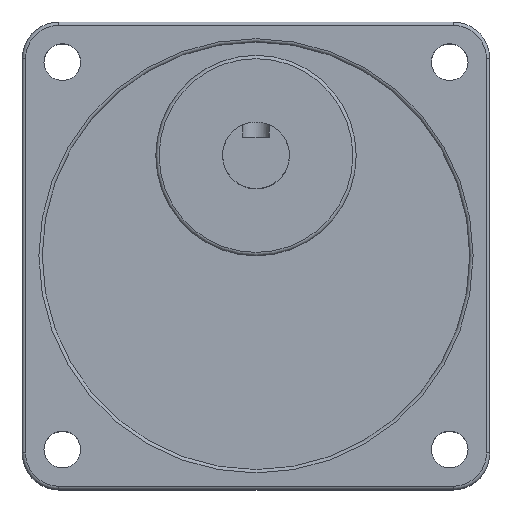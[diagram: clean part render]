
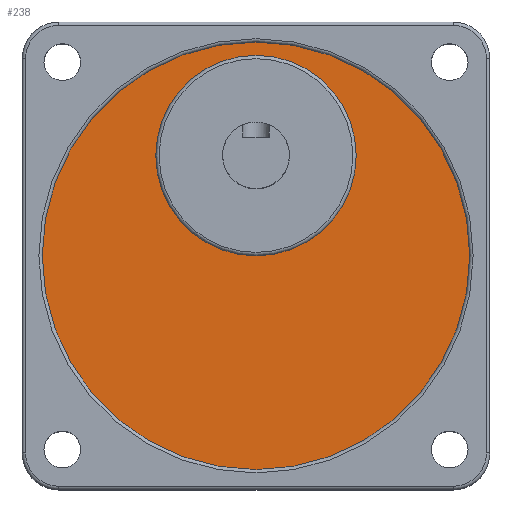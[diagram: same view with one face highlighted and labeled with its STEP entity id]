
A CAD part, top view. The second image highlights one B-rep face of the part: STEP entity #238.
In plain terms, the highlighted planar face has unit normal (0, 0, 1).
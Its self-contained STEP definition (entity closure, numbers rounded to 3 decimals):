
#73=CARTESIAN_POINT('',(32.0,0.,31.5));
#74=VERTEX_POINT('',#73);
#75=CARTESIAN_POINT('',(0.0,0.0,31.5));
#76=DIRECTION('',(0.0,0.0,1.0));
#77=DIRECTION('',(-1.0,0.0,0.0));
#78=AXIS2_PLACEMENT_3D('',#75,#76,#77);
#79=CIRCLE('',#78,32.0);
#80=EDGE_CURVE('',#74,#74,#79,.T.);
#219=CARTESIAN_POINT('',(0.0,0.0,31.5));
#220=DIRECTION('',(0.0,0.0,-1.0));
#221=DIRECTION('',(-1.0,0.0,0.0));
#222=AXIS2_PLACEMENT_3D('',#219,#220,#221);
#223=PLANE('',#222);
#224=ORIENTED_EDGE('',*,*,#80,.T.);
#225=EDGE_LOOP('',(#224));
#226=FACE_OUTER_BOUND('',#225,.T.);
#227=CARTESIAN_POINT('',(15.0,15.,31.5));
#228=VERTEX_POINT('',#227);
#229=CARTESIAN_POINT('',(0.0,15.0,31.5));
#230=DIRECTION('',(0.0,0.0,1.0));
#231=DIRECTION('',(-1.0,0.0,0.0));
#232=AXIS2_PLACEMENT_3D('',#229,#230,#231);
#233=CIRCLE('',#232,15.0);
#234=EDGE_CURVE('',#228,#228,#233,.T.);
#235=ORIENTED_EDGE('',*,*,#234,.F.);
#236=EDGE_LOOP('',(#235));
#237=FACE_BOUND('',#236,.T.);
#238=ADVANCED_FACE('',(#226,#237),#223,.F.);
